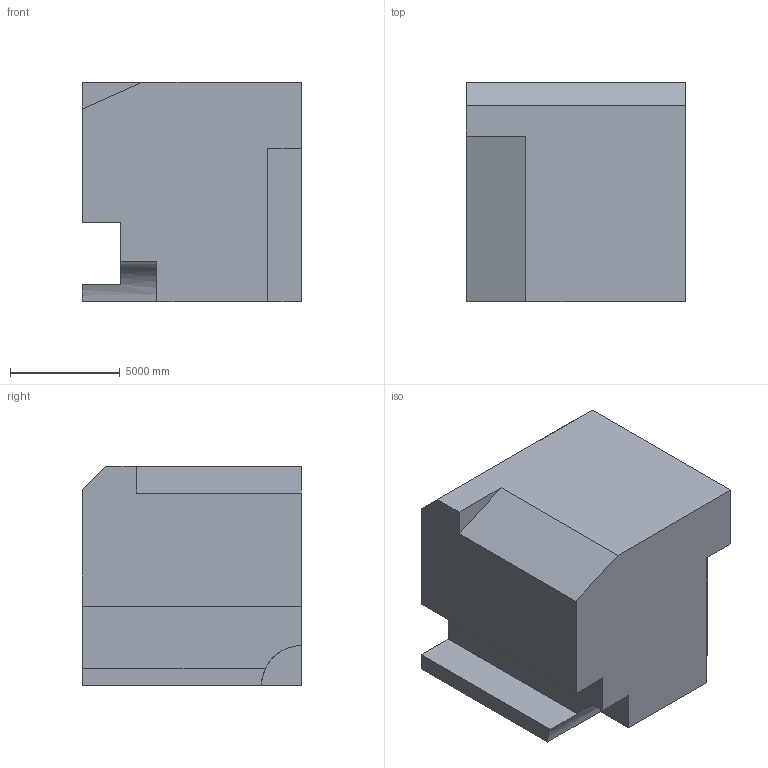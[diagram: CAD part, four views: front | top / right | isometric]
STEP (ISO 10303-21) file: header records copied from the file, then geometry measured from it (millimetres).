
FILE_DESCRIPTION (( 'STEP AP203' ), '1' );
FILE_NAME ('441.STEP', '2022-07-29T11:17:44', ( 'user' ), ( '' ), 'SwSTEP 2.0', 'SolidWorks 2021', '' );
FILE_SCHEMA (( 'CONFIG_CONTROL_DESIGN' ));
Length unit declared in the file: centimetre
Products named in the file (1): 441
Bounding box: 10000 x 10000 x 10000 mm (x, y, z)
Volume: 909783456069.1 mm3; surface area: 603181509.9 mm2
Topology: 1 solids, 1 shells, 18 faces, 48 edges, 32 vertices
Faces by surface type: plane 17, cylinder 1
Entity records: 632 total; most frequent: CARTESIAN_POINT 99, ORIENTED_EDGE 96, DIRECTION 89, EDGE_CURVE 48, VECTOR 45, LINE 45, VERTEX_POINT 32, AXIS2_PLACEMENT_3D 22
